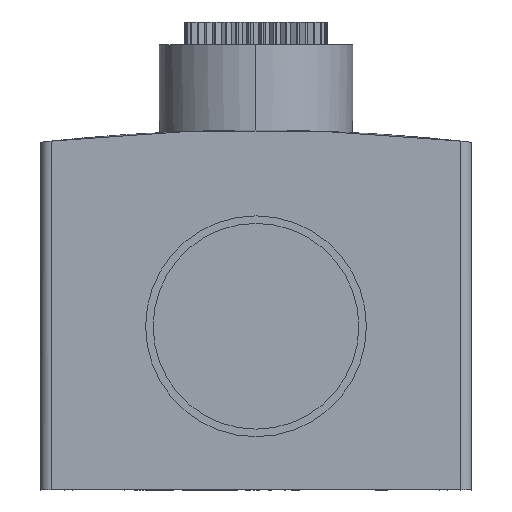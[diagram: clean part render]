
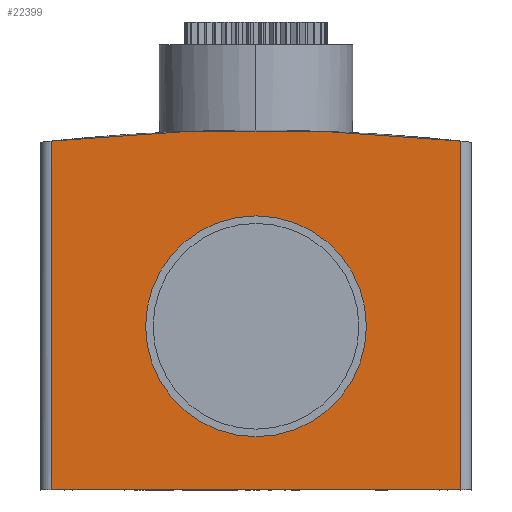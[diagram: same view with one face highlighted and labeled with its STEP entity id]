
A CAD part, front view. The second image highlights one B-rep face of the part: STEP entity #22399.
In plain terms, the highlighted planar face has unit normal (0, -1, 0).
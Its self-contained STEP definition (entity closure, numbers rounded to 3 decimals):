
#533 = DIRECTION ( 'NONE',  ( 0., -1., 0. ) ) ;
#906 = VERTEX_POINT ( 'NONE', #18595 ) ;
#1634 = EDGE_CURVE ( 'NONE', #2455, #17684, #7548, .T. ) ;
#2105 = AXIS2_PLACEMENT_3D ( 'NONE', #20174, #9666, #21955 ) ;
#2311 = VECTOR ( 'NONE', #12601, 1000. ) ;
#2455 = VERTEX_POINT ( 'NONE', #4333 ) ;
#2545 = EDGE_LOOP ( 'NONE', ( #2901, #17381 ) ) ;
#2811 = AXIS2_PLACEMENT_3D ( 'NONE', #11053, #533, #12836 ) ;
#2901 = ORIENTED_EDGE ( 'NONE', *, *, #13997, .F. ) ;
#3216 = VERTEX_POINT ( 'NONE', #14056 ) ;
#3302 = AXIS2_PLACEMENT_3D ( 'NONE', #18988, #8468, #20739 ) ;
#3502 = LINE ( 'NONE', #5945, #12339 ) ;
#3775 = EDGE_CURVE ( 'NONE', #15618, #3216, #13303, .T. ) ;
#3823 = VERTEX_POINT ( 'NONE', #9831 ) ;
#4164 = DIRECTION ( 'NONE',  ( 0., 0., 1. ) ) ;
#4333 = CARTESIAN_POINT ( 'NONE',  ( 19., -45.5, -14.25 ) ) ;
#5628 = CARTESIAN_POINT ( 'NONE',  ( 19., -45.5, 18.144 ) ) ;
#5752 = EDGE_CURVE ( 'NONE', #3823, #906, #3502, .T. ) ;
#5945 = CARTESIAN_POINT ( 'NONE',  ( -19., -45.5, -14.25 ) ) ;
#6146 = LINE ( 'NONE', #12459, #10303 ) ;
#6147 = ORIENTED_EDGE ( 'NONE', *, *, #20316, .T. ) ;
#7113 = CIRCLE ( 'NONE', #2811, 10.25 ) ;
#7319 = CIRCLE ( 'NONE', #3302, 180. ) ;
#7548 = LINE ( 'NONE', #17883, #2311 ) ;
#8315 = ORIENTED_EDGE ( 'NONE', *, *, #18850, .T. ) ;
#8468 = DIRECTION ( 'NONE',  ( 0., -1., 0. ) ) ;
#8569 = FACE_OUTER_BOUND ( 'NONE', #15227, .T. ) ;
#9134 = PLANE ( 'NONE',  #15824 ) ;
#9367 = DIRECTION ( 'NONE',  ( 1., 0., 0. ) ) ;
#9666 = DIRECTION ( 'NONE',  ( 0., -1., 0. ) ) ;
#9831 = CARTESIAN_POINT ( 'NONE',  ( -19., -45.5, -14.25 ) ) ;
#10303 = VECTOR ( 'NONE', #14219, 1000. ) ;
#11053 = CARTESIAN_POINT ( 'NONE',  ( 0., -45.5, 0.95 ) ) ;
#11827 = CARTESIAN_POINT ( 'NONE',  ( 0., -45.5, 11.2 ) ) ;
#12339 = VECTOR ( 'NONE', #4164, 1000. ) ;
#12459 = CARTESIAN_POINT ( 'NONE',  ( 19., -45.5, -14.25 ) ) ;
#12601 = DIRECTION ( 'NONE',  ( 0., 0., 1. ) ) ;
#12836 = DIRECTION ( 'NONE',  ( 0., 0., -1. ) ) ;
#13254 = FACE_BOUND ( 'NONE', #2545, .T. ) ;
#13303 = CIRCLE ( 'NONE', #2105, 10.25 ) ;
#13997 = EDGE_CURVE ( 'NONE', #3216, #15618, #7113, .T. ) ;
#14056 = CARTESIAN_POINT ( 'NONE',  ( 0., -45.5, -9.3 ) ) ;
#14219 = DIRECTION ( 'NONE',  ( 1., 0., 0. ) ) ;
#15227 = EDGE_LOOP ( 'NONE', ( #8315, #18746, #6147, #15497 ) ) ;
#15497 = ORIENTED_EDGE ( 'NONE', *, *, #1634, .T. ) ;
#15618 = VERTEX_POINT ( 'NONE', #11827 ) ;
#15824 = AXIS2_PLACEMENT_3D ( 'NONE', #18127, #19862, #9367 ) ;
#17381 = ORIENTED_EDGE ( 'NONE', *, *, #3775, .F. ) ;
#17684 = VERTEX_POINT ( 'NONE', #5628 ) ;
#17883 = CARTESIAN_POINT ( 'NONE',  ( 19., -45.5, -14.25 ) ) ;
#18127 = CARTESIAN_POINT ( 'NONE',  ( 19., -45.5, -14.25 ) ) ;
#18595 = CARTESIAN_POINT ( 'NONE',  ( -19., -45.5, 18.144 ) ) ;
#18746 = ORIENTED_EDGE ( 'NONE', *, *, #5752, .F. ) ;
#18850 = EDGE_CURVE ( 'NONE', #17684, #906, #7319, .T. ) ;
#18988 = CARTESIAN_POINT ( 'NONE',  ( 0., -45.5, -160.85 ) ) ;
#19862 = DIRECTION ( 'NONE',  ( 0., -1., 0. ) ) ;
#20174 = CARTESIAN_POINT ( 'NONE',  ( 0., -45.5, 0.95 ) ) ;
#20316 = EDGE_CURVE ( 'NONE', #3823, #2455, #6146, .T. ) ;
#20739 = DIRECTION ( 'NONE',  ( 1., 0., 0. ) ) ;
#21955 = DIRECTION ( 'NONE',  ( 0., 0., -1. ) ) ;
#22399 = ADVANCED_FACE ( 'NONE', ( #8569, #13254 ), #9134, .T. ) ;
